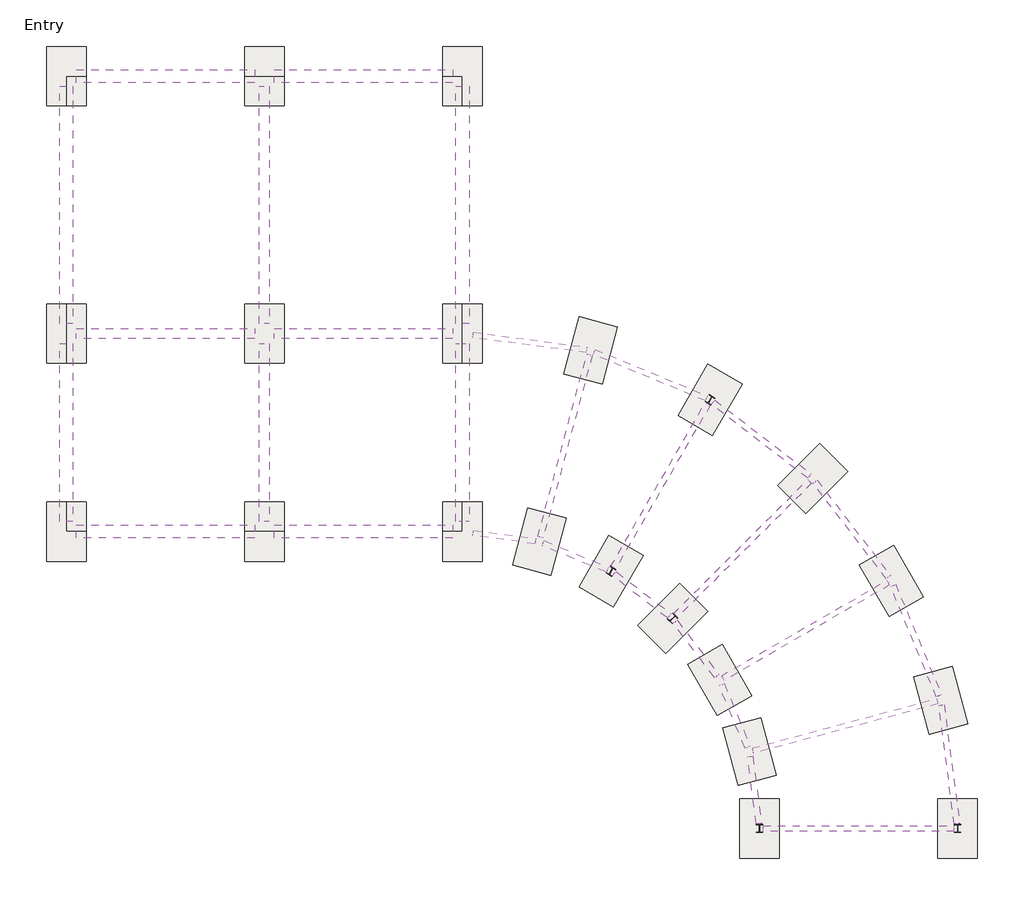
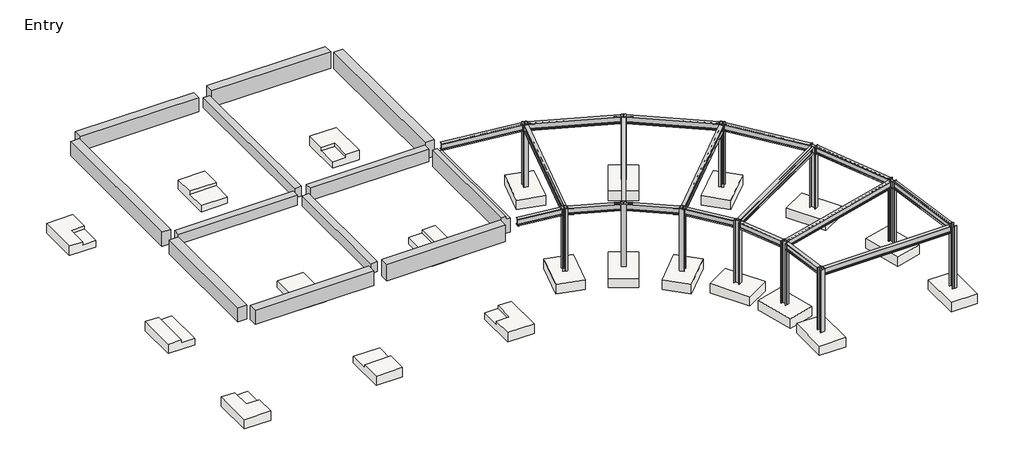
# One storey: 30 beams, 21 slabs, 12 columns.
"""IFC4 building model written with IfcOpenShell, lengths in millimetres."""

from ifc_helpers import new_model, si_unit, frame, origin, place, context, project, spatial, polyline, outline, extrude, faceted_brep, transform, mapped, element, save
from components import w_wide_flange_w12x26_1e533bcd, w_wide_flange_w12x26_3565986b, w_wide_flange_w12x26_ca16ca15, w_wide_flange_w12x26_2a0bff46, w_wide_flange_w12x26_da9b0925, w_wide_flange_w12x26_dd29c176, w_wide_flange_w12x26_e2d6fac9, w_wide_flange_w12x26_4f3258ed, w_wide_flange_w12x26_ec7660bb, w_wide_flange_w12x26_c83151a5, w_wide_flange_w12x26_8d2920dd, w_wide_flange_column_w10x33_7f7bc32a, slab_5ba74754

model = new_model("IFC4")

# Units and contexts
model_context = context("Model", 3, world=origin())
ifc_project = project(units=[si_unit("LENGTHUNIT", "METRE", prefix="MILLI")], contexts=[model_context])

# Site, building, storey
site = spatial("IfcSite", under=ifc_project)
building = spatial("IfcBuilding", under=site)
storey = spatial("IfcBuildingStorey", under=building, Name="Entry", Elevation=0.0)

# Beams
placement = place(None, origin())
element("IfcBeam", 1, ObjectType="Concrete-Rectangular Beam : 12 x 24", at=placement, inside=storey, context=model_context, shape_type="SweptSolid", body=[
    extrude(outline(polyline([(-34903.4783408, 12122.2963551), (-34598.6783408, 12122.2963551), (-34598.6783408, 4807.0963551), (-34903.4783408, 4807.0963551), (-34903.4783408, 12122.2963551)])), frame((0.0, 0.0, 2438.4), z_axis=(0.0, 0.0, 1.0), x_axis=(1.0, 0.0, 0.0)), (0.0, 0.0, 1.0), 488.95),
])
element("IfcBeam", 2, ObjectType="Concrete-Rectangular Beam : 12 x 24", at=placement, inside=storey, context=model_context, shape_type="SweptSolid", body=[
    extrude(outline(polyline([(-34903.4783408, 4197.4963551), (-34598.6783408, 4197.4963551), (-34598.6783408, -1288.9036449), (-34903.4783408, -1288.9036449), (-34903.4783408, 4197.4963551)])), frame((0.0, 0.0, 2438.4), z_axis=(0.0, 0.0, 1.0), x_axis=(1.0, 0.0, 0.0)), (0.0, 0.0, 1.0), 488.95),
])
element("IfcBeam", 3, ObjectType="Concrete-Rectangular Beam : 12 x 24", at=placement, inside=storey, context=model_context, shape_type="SweptSolid", body=[
    extrude(outline(polyline([(-35055.8783408, 4654.6963551), (-35055.8783408, 4349.8963551), (-40542.2783408, 4349.8963551), (-40542.2783408, 4654.6963551), (-35055.8783408, 4654.6963551)])), frame((0.0, 0.0, 2438.4), z_axis=(0.0, 0.0, 1.0), x_axis=(1.0, 0.0, 0.0)), (0.0, 0.0, 1.0), 488.95),
])
element("IfcBeam", 4, ObjectType="Concrete-Rectangular Beam : 12 x 24", at=placement, inside=storey, context=model_context, shape_type="SweptSolid", body=[
    extrude(outline(polyline([(-34446.2783408, 4349.8963551), (-34446.2783408, 4654.6963551), (-28959.8783408, 4654.6963551), (-28959.8783408, 4349.8963551), (-34446.2783408, 4349.8963551)])), frame((0.0, 0.0, 2438.4), z_axis=(0.0, 0.0, 1.0), x_axis=(1.0, 0.0, 0.0)), (0.0, 0.0, 1.0), 609.6),
])
element("IfcBeam", 5, ObjectType="Concrete-Rectangular Beam : 16 x 32", at=placement, inside=storey, context=model_context, shape_type="SweptSolid", body=[
    extrude(outline(polyline([(-40542.2783408, 12223.8963551), (-40542.2783408, 12630.2963551), (-35055.8783408, 12630.2963551), (-35055.8783408, 12223.8963551), (-40542.2783408, 12223.8963551)])), frame((0.0, 0.0, 2235.2), z_axis=(0.0, 0.0, 1.0), x_axis=(1.0, 0.0, 0.0)), (0.0, 0.0, 1.0), 692.15),
])
element("IfcBeam", 6, ObjectType="Concrete-Rectangular Beam : 16 x 32", at=placement, inside=storey, context=model_context, shape_type="SweptSolid", body=[
    extrude(outline(polyline([(-34446.2783408, 12223.8963551), (-34446.2783408, 12630.2963551), (-28959.8783408, 12630.2963551), (-28959.8783408, 12223.8963551), (-34446.2783408, 12223.8963551)])), frame((0.0, 0.0, 2235.2), z_axis=(0.0, 0.0, 1.0), x_axis=(1.0, 0.0, 0.0)), (0.0, 0.0, 1.0), 812.8),
])
element("IfcBeam", 7, ObjectType="Concrete-Rectangular Beam : 16 x 32", at=placement, inside=storey, context=model_context, shape_type="SweptSolid", body=[
    extrude(outline(polyline([(-28451.8783408, 4807.0963551), (-28858.2783408, 4807.0963551), (-28858.2783408, 12122.2963551), (-28451.8783408, 12122.2963551), (-28451.8783408, 4807.0963551)])), frame((0.0, 0.0, 2235.2), z_axis=(0.0, 0.0, 1.0), x_axis=(1.0, 0.0, 0.0)), (0.0, 0.0, 1.0), 812.8),
])
element("IfcBeam", 8, ObjectType="Concrete-Rectangular Beam : 16 x 32", at=placement, inside=storey, context=model_context, shape_type="SweptSolid", body=[
    extrude(outline(polyline([(3048.0, -28858.2783408), (2235.2, -28858.2783408), (2235.2, -28451.8783408), (2921.0, -28451.8783408), (2921.0, -28655.0783408), (3048.0, -28655.0783408), (3048.0, -28858.2783408)])), frame((0.0, -1288.9036449, 0.0), z_axis=(0.0, 1.0, 0.0), x_axis=(0.0, 0.0, 1.0)), (0.0, 0.0, 1.0), 5486.4),
])
element("IfcBeam", 9, ObjectType="Concrete-Rectangular Beam : 16 x 32", at=placement, inside=storey, context=model_context, shape_type="SweptSolid", body=[
    extrude(outline(polyline([(-34446.2783408, -1796.9036449), (-34446.2783408, -1390.5036449), (-28959.8783408, -1390.5036449), (-28959.8783408, -1796.9036449), (-34446.2783408, -1796.9036449)])), frame((0.0, 0.0, 2235.2), z_axis=(0.0, 0.0, 1.0), x_axis=(1.0, 0.0, 0.0)), (0.0, 0.0, 1.0), 812.8),
])
element("IfcBeam", 10, ObjectType="Concrete-Rectangular Beam : 16 x 32", at=placement, inside=storey, context=model_context, shape_type="SweptSolid", body=[
    extrude(outline(polyline([(-35055.8783408, -1390.5036449), (-35055.8783408, -1796.9036449), (-40542.2783408, -1796.9036449), (-40542.2783408, -1390.5036449), (-35055.8783408, -1390.5036449)])), frame((0.0, 0.0, 2235.2), z_axis=(0.0, 0.0, 1.0), x_axis=(1.0, 0.0, 0.0)), (0.0, 0.0, 1.0), 692.15),
])
element("IfcBeam", 11, ObjectType="Concrete-Rectangular Beam : 16 x 32", at=placement, inside=storey, context=model_context, shape_type="SweptSolid", body=[
    extrude(outline(polyline([(-40643.8783408, -1288.9036449), (-41050.2783408, -1288.9036449), (-41050.2783408, 4197.4963551), (-40643.8783408, 4197.4963551), (-40643.8783408, -1288.9036449)])), frame((0.0, 0.0, 2235.2), z_axis=(0.0, 0.0, 1.0), x_axis=(1.0, 0.0, 0.0)), (0.0, 0.0, 1.0), 692.15),
])
element("IfcBeam", 12, ObjectType="Concrete-Rectangular Beam : 16 x 32", at=placement, inside=storey, context=model_context, shape_type="SweptSolid", body=[
    extrude(outline(polyline([(-40643.8783408, 4807.0963551), (-41050.2783408, 4807.0963551), (-41050.2783408, 12122.2963551), (-40643.8783408, 12122.2963551), (-40643.8783408, 4807.0963551)])), frame((0.0, 0.0, 2235.2), z_axis=(0.0, 0.0, 1.0), x_axis=(1.0, 0.0, 0.0)), (0.0, 0.0, 1.0), 692.15),
])
w_wide_flange_w12x26_shape = w_wide_flange_w12x26_1e533bcd(model_context)
element("IfcBeam", 13, ObjectType="W-Wide Flange : W12X26", at=placement, inside=storey, context=model_context, shape_type="MappedRepresentation", body=[
    mapped(w_wide_flange_w12x26_shape, transform((-26682.8772171, 4242.6511514, 2892.821875), x_axis=(0.991444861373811, -0.13052619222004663, 0.0), y_axis=(0.13052619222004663, 0.991444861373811, 0.0), z_axis=(0.0, 0.0, 1.0))),
])
w_wide_flange_w12x26_2_shape = w_wide_flange_w12x26_3565986b(model_context)
element("IfcBeam", 14, ObjectType="W-Wide Flange : W12X26", at=placement, inside=storey, context=model_context, shape_type="MappedRepresentation", body=[
    mapped(w_wide_flange_w12x26_2_shape, transform((-22872.8772171, 3221.7647282, 2892.821875), x_axis=(0.923879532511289, -0.3826834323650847, 0.0), y_axis=(0.3826834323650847, 0.923879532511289, 0.0), z_axis=(0.0, 0.0, 1.0))),
])
element("IfcBeam", 15, ObjectType="W-Wide Flange : W12X26", at=placement, inside=storey, context=model_context, shape_type="MappedRepresentation", body=[
    mapped(w_wide_flange_w12x26_2_shape, transform((-19456.9246682, 1249.5636046, 2892.821875), x_axis=(0.7933533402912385, -0.6087614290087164, 0.0), y_axis=(0.6087614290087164, 0.7933533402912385, 0.0), z_axis=(0.0, 0.0, 1.0))),
])
w_wide_flange_w12x26_3_shape = w_wide_flange_w12x26_ca16ca15(model_context)
element("IfcBeam", 16, ObjectType="W-Wide Flange : W12X26", at=placement, inside=storey, context=model_context, shape_type="MappedRepresentation", body=[
    mapped(w_wide_flange_w12x26_3_shape, transform((-16667.8110913, -1539.5499723, 2892.821875), x_axis=(0.6087614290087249, -0.7933533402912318, 0.0), y_axis=(0.7933533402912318, 0.6087614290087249, 0.0), z_axis=(0.0, 0.0, 1.0))),
])
w_wide_flange_w12x26_4_shape = w_wide_flange_w12x26_2a0bff46(model_context)
element("IfcBeam", 17, ObjectType="W-Wide Flange : W12X26", at=placement, inside=storey, context=model_context, shape_type="MappedRepresentation", body=[
    mapped(w_wide_flange_w12x26_4_shape, transform((-14695.6099677, -4955.5025212, 2892.821875), x_axis=(0.3826834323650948, -0.9238795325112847, 0.0), y_axis=(0.9238795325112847, 0.3826834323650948, 0.0), z_axis=(0.0, 0.0, 1.0))),
])
element("IfcBeam", 18, ObjectType="W-Wide Flange : W12X26", at=placement, inside=storey, context=model_context, shape_type="MappedRepresentation", body=[
    mapped(w_wide_flange_w12x26_4_shape, transform((-13674.7235445, -8765.5025212, 2892.821875), x_axis=(0.13052619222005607, -0.9914448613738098, 0.0), y_axis=(0.9914448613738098, 0.13052619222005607, 0.0), z_axis=(0.0, 0.0, 1.0))),
])
w_wide_flange_w12x26_5_shape = w_wide_flange_w12x26_da9b0925(model_context)
element("IfcBeam", 19, ObjectType="W-Wide Flange : W12X26", at=placement, inside=storey, context=model_context, shape_type="MappedRepresentation", body=[
    mapped(w_wide_flange_w12x26_5_shape, transform((-27471.7576666, -1749.4907671, 2892.821875), x_axis=(0.9914448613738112, -0.13052619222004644, 0.0), y_axis=(0.13052619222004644, 0.9914448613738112, 0.0), z_axis=(0.0, 0.0, 1.0))),
])
w_wide_flange_w12x26_6_shape = w_wide_flange_w12x26_dd29c176(model_context)
element("IfcBeam", 20, ObjectType="W-Wide Flange : W12X26", at=placement, inside=storey, context=model_context, shape_type="MappedRepresentation", body=[
    mapped(w_wide_flange_w12x26_6_shape, transform((-25185.7576666, -2362.022621, 2892.821875), x_axis=(0.9238795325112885, -0.38268343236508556, 0.0), y_axis=(0.38268343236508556, 0.9238795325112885, 0.0), z_axis=(0.0, 0.0, 1.0))),
])
element("IfcBeam", 21, ObjectType="W-Wide Flange : W12X26", at=placement, inside=storey, context=model_context, shape_type="MappedRepresentation", body=[
    mapped(w_wide_flange_w12x26_6_shape, transform((-23136.1861372, -3545.3432952, 2892.821875), x_axis=(0.7933533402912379, -0.6087614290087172, 0.0), y_axis=(0.6087614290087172, 0.7933533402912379, 0.0), z_axis=(0.0, 0.0, 1.0))),
])
w_wide_flange_w12x26_7_shape = w_wide_flange_w12x26_e2d6fac9(model_context)
element("IfcBeam", 22, ObjectType="W-Wide Flange : W12X26", at=placement, inside=storey, context=model_context, shape_type="MappedRepresentation", body=[
    mapped(w_wide_flange_w12x26_7_shape, transform((-21462.7179911, -5218.8114413, 2892.821875), x_axis=(0.6087614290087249, -0.793353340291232, 0.0), y_axis=(0.793353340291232, 0.6087614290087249, 0.0), z_axis=(0.0, 0.0, 1.0))),
])
w_wide_flange_w12x26_8_shape = w_wide_flange_w12x26_4f3258ed(model_context)
element("IfcBeam", 23, ObjectType="W-Wide Flange : W12X26", at=placement, inside=storey, context=model_context, shape_type="MappedRepresentation", body=[
    mapped(w_wide_flange_w12x26_8_shape, transform((-20279.3973169, -7268.3829707, 2892.821875), x_axis=(0.3826834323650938, -0.9238795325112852, 0.0), y_axis=(0.9238795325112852, 0.3826834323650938, 0.0), z_axis=(0.0, 0.0, 1.0))),
])
element("IfcBeam", 24, ObjectType="W-Wide Flange : W12X26", at=placement, inside=storey, context=model_context, shape_type="MappedRepresentation", body=[
    mapped(w_wide_flange_w12x26_8_shape, transform((-19666.865463, -9554.3829707, 2892.821875), x_axis=(0.13052619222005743, -0.9914448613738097, 0.0), y_axis=(0.9914448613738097, 0.13052619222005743, 0.0), z_axis=(0.0, 0.0, 1.0))),
])
w_wide_flange_w12x26_9_shape = w_wide_flange_w12x26_ec7660bb(model_context)
element("IfcBeam", 25, ObjectType="W-Wide Flange : W12X26", at=placement, inside=storey, context=model_context, shape_type="MappedRepresentation", body=[
    mapped(w_wide_flange_w12x26_9_shape, transform((-25483.5645084, 1098.5471145, 2892.821875), x_axis=(-0.25881904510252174, -0.9659258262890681, 0.0), y_axis=(0.9659258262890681, -0.25881904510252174, 0.0), z_axis=(0.0, 0.0, 1.0))),
])
w_wide_flange_w12x26_10_shape = w_wide_flange_w12x26_c83151a5(model_context)
element("IfcBeam", 26, ObjectType="W-Wide Flange : W12X26", at=placement, inside=storey, context=model_context, shape_type="MappedRepresentation", body=[
    mapped(w_wide_flange_w12x26_10_shape, transform((-22559.0783408, -179.121922, 2892.821875), x_axis=(0.5000000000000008, 0.8660254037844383, 0.0), y_axis=(-0.8660254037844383, 0.5000000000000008, 0.0), z_axis=(0.0, 0.0, 1.0))),
])
element("IfcBeam", 27, ObjectType="W-Wide Flange : W12X26", at=placement, inside=storey, context=model_context, shape_type="MappedRepresentation", body=[
    mapped(w_wide_flange_w12x26_10_shape, transform((-20034.0324646, -2116.6577687, 2892.821875), x_axis=(0.7071067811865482, 0.7071067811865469, 0.0), y_axis=(-0.7071067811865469, 0.7071067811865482, 0.0), z_axis=(0.0, 0.0, 1.0))),
])
w_wide_flange_w12x26_11_shape = w_wide_flange_w12x26_8d2920dd(model_context)
element("IfcBeam", 28, ObjectType="W-Wide Flange : W12X26", at=placement, inside=storey, context=model_context, shape_type="MappedRepresentation", body=[
    mapped(w_wide_flange_w12x26_11_shape, transform((-18096.4966179, -4641.7036449, 2892.821875), x_axis=(0.866025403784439, 0.49999999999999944, 0.0), y_axis=(-0.49999999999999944, 0.866025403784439, 0.0), z_axis=(0.0, 0.0, 1.0))),
])
element("IfcBeam", 29, ObjectType="W-Wide Flange : W12X26", at=placement, inside=storey, context=model_context, shape_type="MappedRepresentation", body=[
    mapped(w_wide_flange_w12x26_11_shape, transform((-16878.5106667, -7582.181847, 2892.821875), x_axis=(0.9659258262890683, 0.25881904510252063, 0.0), y_axis=(-0.25881904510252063, 0.9659258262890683, 0.0), z_axis=(0.0, 0.0, 1.0))),
])
element("IfcBeam", 30, ObjectType="W-Wide Flange : W12X26", at=placement, inside=storey, context=model_context, shape_type="MappedRepresentation", body=[
    mapped(w_wide_flange_w12x26_11_shape, transform((-16463.0783408, -10737.7036449, 2892.821875), x_axis=(1.0, 0.0, 0.0), y_axis=(0.0, 1.0, 0.0), z_axis=(0.0, 0.0, 1.0))),
])

# Columns
w_wide_flange_column_w10x33_shape = w_wide_flange_column_w10x33_7f7bc32a(model_context)
element("IfcColumn", 31, ObjectType="W-Wide Flange-Column : W10X33", at=placement, inside=storey, context=model_context, shape_type="MappedRepresentation", body=[
    mapped(w_wide_flange_column_w10x33_shape, transform((-19511.0783408, -10737.7036449, 0.0), x_axis=(1.0, 0.0, 0.0), y_axis=(0.0, 1.0, 0.0), z_axis=(0.0, 0.0, 1.0))),
])
element("IfcColumn", 32, ObjectType="W-Wide Flange-Column : W10X33", at=placement, inside=storey, context=model_context, shape_type="MappedRepresentation", body=[
    mapped(w_wide_flange_column_w10x33_shape, transform((-20736.1420486, -6165.7036449, 0.0), x_axis=(0.866025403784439, 0.49999999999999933, 0.0), y_axis=(-0.49999999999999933, 0.866025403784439, 0.0), z_axis=(0.0, 0.0, 1.0))),
])
element("IfcColumn", 33, ObjectType="W-Wide Flange-Column : W10X33", at=placement, inside=storey, context=model_context, shape_type="MappedRepresentation", body=[
    mapped(w_wide_flange_column_w10x33_shape, transform((-24083.0783408, -2818.7673527, 0.0), x_axis=(0.8660254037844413, -0.49999999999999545, 0.0), y_axis=(0.49999999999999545, 0.8660254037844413, 0.0), z_axis=(0.0, 0.0, 1.0))),
])
element("IfcColumn", 34, ObjectType="W-Wide Flange-Column : W10X33", at=placement, inside=storey, context=model_context, shape_type="MappedRepresentation", body=[
    mapped(w_wide_flange_column_w10x33_shape, transform((-26288.4369924, -1905.2778893, 0.0), x_axis=(0.9659258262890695, -0.258819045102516, 0.0), y_axis=(0.258819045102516, 0.9659258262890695, 0.0), z_axis=(0.0, 0.0, 1.0))),
])
element("IfcColumn", 35, ObjectType="W-Wide Flange-Column : W10X33", at=placement, inside=storey, context=model_context, shape_type="MappedRepresentation", body=[
    mapped(w_wide_flange_column_w10x33_shape, transform((-13415.0783408, -10737.7036449, 0.0), x_axis=(1.0, 0.0, 0.0), y_axis=(0.0, 1.0, 0.0), z_axis=(0.0, 0.0, 1.0))),
])
element("IfcColumn", 36, ObjectType="W-Wide Flange-Column : W10X33", at=placement, inside=storey, context=model_context, shape_type="MappedRepresentation", body=[
    mapped(w_wide_flange_column_w10x33_shape, transform((-15456.8511871, -3117.7036449, 0.0), x_axis=(0.866025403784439, 0.49999999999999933, 0.0), y_axis=(-0.49999999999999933, 0.866025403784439, 0.0), z_axis=(0.0, 0.0, 1.0))),
])
element("IfcColumn", 37, ObjectType="W-Wide Flange-Column : W10X33", at=placement, inside=storey, context=model_context, shape_type="MappedRepresentation", body=[
    mapped(w_wide_flange_column_w10x33_shape, transform((-21035.0783408, 2460.5235088, 0.0), x_axis=(0.8660254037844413, -0.49999999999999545, 0.0), y_axis=(0.49999999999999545, 0.8660254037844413, 0.0), z_axis=(0.0, 0.0, 1.0))),
])
element("IfcColumn", 38, ObjectType="W-Wide Flange-Column : W10X33", at=placement, inside=storey, context=model_context, shape_type="MappedRepresentation", body=[
    mapped(w_wide_flange_column_w10x33_shape, transform((-24710.6760935, 3983.0059477, 0.0), x_axis=(0.9659258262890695, -0.258819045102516, 0.0), y_axis=(0.258819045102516, 0.9659258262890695, 0.0), z_axis=(0.0, 0.0, 1.0))),
])
element("IfcColumn", 39, ObjectType="W-Wide Flange-Column : W10X33", at=placement, inside=storey, context=model_context, shape_type="MappedRepresentation", body=[
    mapped(w_wide_flange_column_w10x33_shape, transform((-22189.2939336, -4271.9192377, 0.0), x_axis=(0.7071067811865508, -0.7071067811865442, 0.0), y_axis=(0.7071067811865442, 0.7071067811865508, 0.0), z_axis=(0.0, 0.0, 1.0))),
])
element("IfcColumn", 40, ObjectType="W-Wide Flange-Column : W10X33", at=placement, inside=storey, context=model_context, shape_type="MappedRepresentation", body=[
    mapped(w_wide_flange_column_w10x33_shape, transform((-17878.7709955, 38.6037004, 0.0), x_axis=(0.7071067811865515, -0.7071067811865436, 0.0), y_axis=(0.7071067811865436, 0.7071067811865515, 0.0), z_axis=(0.0, 0.0, 1.0))),
])
element("IfcColumn", 41, ObjectType="W-Wide Flange-Column : W10X33", at=placement, inside=storey, context=model_context, shape_type="MappedRepresentation", body=[
    mapped(w_wide_flange_column_w10x33_shape, transform((-19822.6525852, -8371.0622965, 0.0), x_axis=(0.9659258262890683, 0.25881904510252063, 0.0), y_axis=(-0.25881904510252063, 0.9659258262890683, 0.0), z_axis=(0.0, 0.0, 1.0))),
])
element("IfcColumn", 42, ObjectType="W-Wide Flange-Column : W10X33", at=placement, inside=storey, context=model_context, shape_type="MappedRepresentation", body=[
    mapped(w_wide_flange_column_w10x33_shape, transform((-13934.3687482, -6793.3013975, 0.0), x_axis=(0.9659258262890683, 0.25881904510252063, 0.0), y_axis=(-0.25881904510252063, 0.9659258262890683, 0.0), z_axis=(0.0, 0.0, 1.0))),
])

# Slabs
element("IfcSlab", 43, ObjectType="Footing-Rectangular : 72\" x 48\" x 18\"", at=placement, inside=storey, context=model_context, shape_type="Brep", body=[
    faceted_brep([(-40237.4783408, 13341.4963551, -1676.4), (-41456.6783408, 13341.4963551, -1676.4), (-41456.6783408, 11512.6963551, -1676.4), (-40847.0783408, 11512.6963551, -1676.4), (-40847.0783408, 12427.0963551, -1676.4), (-40237.4783408, 12427.0963551, -1676.4), (-41456.6783408, 11512.6963551, -2133.6), (-41456.6783408, 13341.4963551, -2133.6), (-40237.4783408, 13341.4963551, -2133.6), (-40237.4783408, 11512.6963551, -2133.6), (-40237.4783408, 11512.6963551, -1828.8), (-40847.0783408, 11512.6963551, -1828.8), (-40237.4783408, 12427.0963551, -1828.8), (-40847.0783408, 12427.0963551, -1828.8)], [[[0, 1, 2, 3, 4, 5]], [[6, 7, 8, 9]], [[6, 9, 10, 11, 3, 2]], [[9, 8, 0, 5, 12, 10]], [[1, 0, 8, 7]], [[2, 1, 7, 6]], [[12, 13, 11, 10]], [[13, 4, 3, 11]], [[4, 13, 12, 5]]]),
])
element("IfcSlab", 44, ObjectType="Footing-Rectangular : 72\" x 48\" x 18\"", at=placement, inside=storey, context=model_context, shape_type="SweptSolid", body=[
    extrude(outline(polyline([(13341.4963551, -2133.6), (11512.6963551, -2133.6), (11512.6963551, -1828.8), (12427.0963551, -1828.8), (12427.0963551, -1676.4), (13341.4963551, -1676.4), (13341.4963551, -2133.6)])), frame((-35360.6783408, 0.0, 0.0), z_axis=(1.0, 0.0, 0.0), x_axis=(0.0, 1.0, 0.0)), (0.0, 0.0, 1.0), 1219.2),
])
element("IfcSlab", 45, ObjectType="Footing-Rectangular : 72\" x 48\" x 18\"", at=placement, inside=storey, context=model_context, shape_type="Brep", body=[
    faceted_brep([(-28045.4783408, 11512.6963551, -1676.4), (-28045.4783408, 13341.4963551, -1676.4), (-29264.6783408, 13341.4963551, -1676.4), (-29264.6783408, 12427.0963551, -1676.4), (-28655.0783408, 12427.0963551, -1676.4), (-28655.0783408, 11512.6963551, -1676.4), (-29264.6783408, 11512.6963551, -2133.6), (-29264.6783408, 13341.4963551, -2133.6), (-28045.4783408, 13341.4963551, -2133.6), (-28045.4783408, 11512.6963551, -2133.6), (-28655.0783408, 11512.6963551, -1828.8), (-29264.6783408, 11512.6963551, -1828.8), (-29264.6783408, 12427.0963551, -1828.8), (-28655.0783408, 12427.0963551, -1828.8)], [[[0, 1, 2, 3, 4, 5]], [[6, 7, 8, 9]], [[6, 9, 0, 5, 10, 11]], [[1, 0, 9, 8]], [[2, 1, 8, 7]], [[7, 6, 11, 12, 3, 2]], [[13, 12, 11, 10]], [[4, 13, 10, 5]], [[13, 4, 3, 12]]]),
])
element("IfcSlab", 46, ObjectType="Footing-Rectangular : 72\" x 48\" x 18\"", at=placement, inside=storey, context=model_context, shape_type="SweptSolid", body=[
    extrude(outline(polyline([(-2133.6, -29264.6783408), (-2133.6, -28045.4783408), (-1676.4, -28045.4783408), (-1676.4, -28655.0783408), (-1828.8, -28655.0783408), (-1828.8, -29264.6783408), (-2133.6, -29264.6783408)])), frame((0.0, 3587.8963551, 0.0), z_axis=(0.0, 1.0, 0.0), x_axis=(0.0, 0.0, 1.0)), (0.0, 0.0, 1.0), 1828.8),
])
element("IfcSlab", 47, ObjectType="Footing-Rectangular : 72\" x 48\" x 18\"", at=placement, inside=storey, context=model_context, shape_type="SweptSolid", body=[
    extrude(outline(polyline([(-35360.6783408, 3587.8963551), (-35360.6783408, 5416.6963551), (-34141.4783408, 5416.6963551), (-34141.4783408, 3587.8963551), (-35360.6783408, 3587.8963551)])), frame((0.0, 0.0, -2133.6), z_axis=(0.0, 0.0, 1.0), x_axis=(1.0, 0.0, 0.0)), (0.0, 0.0, 1.0), 304.8),
])
element("IfcSlab", 48, ObjectType="Footing-Rectangular : 72\" x 48\" x 18\"", at=placement, inside=storey, context=model_context, shape_type="SweptSolid", body=[
    extrude(outline(polyline([(-2133.6, -41456.6783408), (-2133.6, -40237.4783408), (-1828.8, -40237.4783408), (-1828.8, -40847.0783408), (-1676.4, -40847.0783408), (-1676.4, -41456.6783408), (-2133.6, -41456.6783408)])), frame((0.0, 3587.8963551, 0.0), z_axis=(0.0, 1.0, 0.0), x_axis=(0.0, 0.0, 1.0)), (0.0, 0.0, 1.0), 1828.8),
])
element("IfcSlab", 49, ObjectType="Footing-Rectangular : 72\" x 48\" x 18\"", at=placement, inside=storey, context=model_context, shape_type="Brep", body=[
    faceted_brep([(-29264.6783408, -2508.1036449, -1676.4), (-28045.4783408, -2508.1036449, -1676.4), (-28045.4783408, -679.3036449, -1676.4), (-28655.0783408, -679.3036449, -1676.4), (-28655.0783408, -1593.7036449, -1676.4), (-29264.6783408, -1593.7036449, -1676.4), (-29264.6783408, -2508.1036449, -2133.6), (-29264.6783408, -679.3036449, -2133.6), (-28045.4783408, -679.3036449, -2133.6), (-28045.4783408, -2508.1036449, -2133.6), (-29264.6783408, -679.3036449, -1828.8), (-28655.0783408, -679.3036449, -1828.8), (-29264.6783408, -1593.7036449, -1828.8), (-28655.0783408, -1593.7036449, -1828.8)], [[[0, 1, 2, 3, 4, 5]], [[6, 7, 8, 9]], [[1, 0, 6, 9]], [[2, 1, 9, 8]], [[8, 7, 10, 11, 3, 2]], [[7, 6, 0, 5, 12, 10]], [[12, 13, 11, 10]], [[13, 4, 3, 11]], [[4, 13, 12, 5]]]),
])
element("IfcSlab", 50, ObjectType="Footing-Rectangular : 72\" x 48\" x 18\"", at=placement, inside=storey, context=model_context, shape_type="SweptSolid", body=[
    extrude(outline(polyline([(-679.3036449, -2133.6), (-2508.1036449, -2133.6), (-2508.1036449, -1676.4), (-1593.7036449, -1676.4), (-1593.7036449, -1828.8), (-679.3036449, -1828.8), (-679.3036449, -2133.6)])), frame((-35360.6783408, 0.0, 0.0), z_axis=(1.0, 0.0, 0.0), x_axis=(0.0, 1.0, 0.0)), (0.0, 0.0, 1.0), 1219.2),
])
element("IfcSlab", 51, ObjectType="Footing-Rectangular : 72\" x 48\" x 18\"", at=placement, inside=storey, context=model_context, shape_type="Brep", body=[
    faceted_brep([(-41456.6783408, -2508.1036449, -1676.4), (-40237.4783408, -2508.1036449, -1676.4), (-40237.4783408, -1593.7036449, -1676.4), (-40847.0783408, -1593.7036449, -1676.4), (-40847.0783408, -679.3036449, -1676.4), (-41456.6783408, -679.3036449, -1676.4), (-41456.6783408, -2508.1036449, -2133.6), (-41456.6783408, -679.3036449, -2133.6), (-40237.4783408, -679.3036449, -2133.6), (-40237.4783408, -2508.1036449, -2133.6), (-40237.4783408, -679.3036449, -1828.8), (-40237.4783408, -1593.7036449, -1828.8), (-40847.0783408, -679.3036449, -1828.8), (-40847.0783408, -1593.7036449, -1828.8)], [[[0, 1, 2, 3, 4, 5]], [[6, 7, 8, 9]], [[1, 0, 6, 9]], [[9, 8, 10, 11, 2, 1]], [[8, 7, 5, 4, 12, 10]], [[0, 5, 7, 6]], [[12, 13, 11, 10]], [[13, 3, 2, 11]], [[3, 13, 12, 4]]]),
])
slab_shape = slab_5ba74754(model_context)
element("IfcSlab", 52, ObjectType="Footing-Rectangular : 72\" x 48\" x 18\"", at=placement, inside=storey, context=model_context, shape_type="MappedRepresentation", body=[
    mapped(slab_shape, transform((-21035.0783408, 2460.5235088, 0.0), x_axis=(0.8660254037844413, -0.49999999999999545, 0.0), y_axis=(0.49999999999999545, 0.8660254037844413, 0.0), z_axis=(0.0, 0.0, 1.0))),
])
element("IfcSlab", 53, ObjectType="Footing-Rectangular : 72\" x 48\" x 18\"", at=placement, inside=storey, context=model_context, shape_type="MappedRepresentation", body=[
    mapped(slab_shape, transform((-24710.6760935, 3983.0059477, 0.0), x_axis=(0.9659258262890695, -0.258819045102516, 0.0), y_axis=(0.258819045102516, 0.9659258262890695, 0.0), z_axis=(0.0, 0.0, 1.0))),
])
element("IfcSlab", 54, ObjectType="Footing-Rectangular : 72\" x 48\" x 18\"", at=placement, inside=storey, context=model_context, shape_type="MappedRepresentation", body=[
    mapped(slab_shape, transform((-17878.7709955, 38.6037004, 0.0), x_axis=(0.7071067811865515, -0.7071067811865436, 0.0), y_axis=(0.7071067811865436, 0.7071067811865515, 0.0), z_axis=(0.0, 0.0, 1.0))),
])
element("IfcSlab", 55, ObjectType="Footing-Rectangular : 72\" x 48\" x 18\"", at=placement, inside=storey, context=model_context, shape_type="MappedRepresentation", body=[
    mapped(slab_shape, transform((-15456.8511871, -3117.7036449, 0.0), x_axis=(0.866025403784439, 0.49999999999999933, 0.0), y_axis=(-0.49999999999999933, 0.866025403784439, 0.0), z_axis=(0.0, 0.0, 1.0))),
])
element("IfcSlab", 56, ObjectType="Footing-Rectangular : 72\" x 48\" x 18\"", at=placement, inside=storey, context=model_context, shape_type="MappedRepresentation", body=[
    mapped(slab_shape, transform((-13934.3687482, -6793.3013975, 0.0), x_axis=(0.9659258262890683, 0.25881904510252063, 0.0), y_axis=(-0.25881904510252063, 0.9659258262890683, 0.0), z_axis=(0.0, 0.0, 1.0))),
])
element("IfcSlab", 57, ObjectType="Footing-Rectangular : 72\" x 48\" x 18\"", at=placement, inside=storey, context=model_context, shape_type="MappedRepresentation", body=[
    mapped(slab_shape, transform((-13415.0783408, -10737.7036449, 0.0), x_axis=(1.0, 0.0, 0.0), y_axis=(0.0, 1.0, 0.0), z_axis=(0.0, 0.0, 1.0))),
])
element("IfcSlab", 58, ObjectType="Footing-Rectangular : 72\" x 48\" x 18\"", at=placement, inside=storey, context=model_context, shape_type="MappedRepresentation", body=[
    mapped(slab_shape, transform((-26288.4369924, -1905.2778893, 0.0), x_axis=(0.9659258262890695, -0.258819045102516, 0.0), y_axis=(0.258819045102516, 0.9659258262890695, 0.0), z_axis=(0.0, 0.0, 1.0))),
])
element("IfcSlab", 59, ObjectType="Footing-Rectangular : 72\" x 48\" x 18\"", at=placement, inside=storey, context=model_context, shape_type="MappedRepresentation", body=[
    mapped(slab_shape, transform((-24083.0783408, -2818.7673527, 0.0), x_axis=(0.8660254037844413, -0.49999999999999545, 0.0), y_axis=(0.49999999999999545, 0.8660254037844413, 0.0), z_axis=(0.0, 0.0, 1.0))),
])
element("IfcSlab", 60, ObjectType="Footing-Rectangular : 72\" x 48\" x 18\"", at=placement, inside=storey, context=model_context, shape_type="MappedRepresentation", body=[
    mapped(slab_shape, transform((-22189.2939336, -4271.9192377, 0.0), x_axis=(0.7071067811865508, -0.7071067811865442, 0.0), y_axis=(0.7071067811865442, 0.7071067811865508, 0.0), z_axis=(0.0, 0.0, 1.0))),
])
element("IfcSlab", 61, ObjectType="Footing-Rectangular : 72\" x 48\" x 18\"", at=placement, inside=storey, context=model_context, shape_type="MappedRepresentation", body=[
    mapped(slab_shape, transform((-20736.1420486, -6165.7036449, 0.0), x_axis=(0.866025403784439, 0.49999999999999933, 0.0), y_axis=(-0.49999999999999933, 0.866025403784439, 0.0), z_axis=(0.0, 0.0, 1.0))),
])
element("IfcSlab", 62, ObjectType="Footing-Rectangular : 72\" x 48\" x 18\"", at=placement, inside=storey, context=model_context, shape_type="MappedRepresentation", body=[
    mapped(slab_shape, transform((-19822.6525852, -8371.0622965, 0.0), x_axis=(0.9659258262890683, 0.25881904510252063, 0.0), y_axis=(-0.25881904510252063, 0.9659258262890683, 0.0), z_axis=(0.0, 0.0, 1.0))),
])
element("IfcSlab", 63, ObjectType="Footing-Rectangular : 72\" x 48\" x 18\"", at=placement, inside=storey, context=model_context, shape_type="MappedRepresentation", body=[
    mapped(slab_shape, transform((-19511.0783408, -10737.7036449, 0.0), x_axis=(1.0, 0.0, 0.0), y_axis=(0.0, 1.0, 0.0), z_axis=(0.0, 0.0, 1.0))),
])

save(model, "model.ifc")
